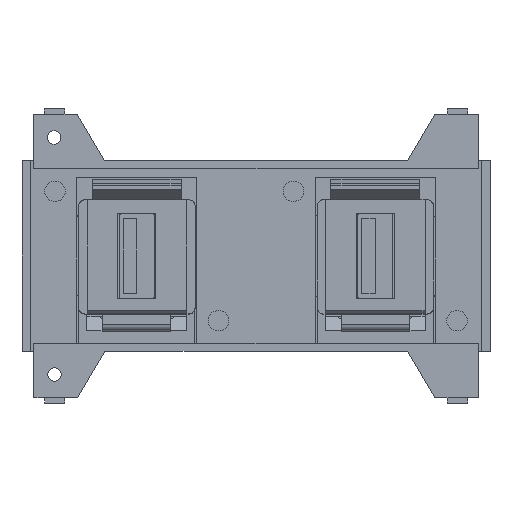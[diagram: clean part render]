
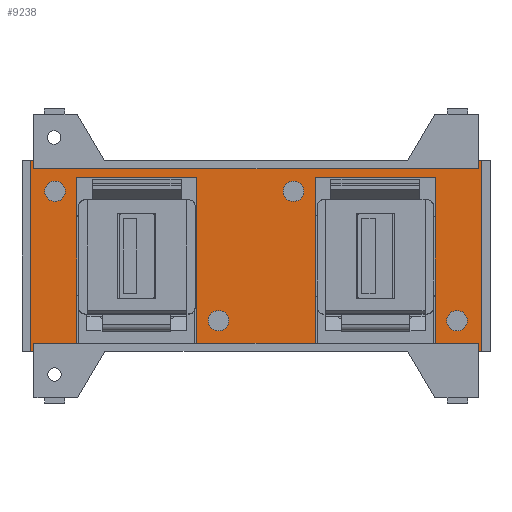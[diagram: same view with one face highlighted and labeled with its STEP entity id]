
A CAD part, top view. The second image highlights one B-rep face of the part: STEP entity #9238.
In plain terms, the highlighted planar face has unit normal (0, 0, 1).
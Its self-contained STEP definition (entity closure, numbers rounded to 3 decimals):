
#8682 = VERTEX_POINT('',#8683);
#8683 = CARTESIAN_POINT('',(-4.5,-9.5,1.2));
#8689 = EDGE_CURVE('',#8682,#8682,#8690,.T.);
#8690 = CIRCLE('',#8691,1.);
#8691 = AXIS2_PLACEMENT_3D('',#8692,#8693,#8694);
#8692 = CARTESIAN_POINT('',(-5.5,-9.5,1.2));
#8693 = DIRECTION('',(0.,0.,-1.));
#8694 = DIRECTION('',(1.,0.,0.));
#8707 = VERTEX_POINT('',#8708);
#8708 = CARTESIAN_POINT('',(30.5,-9.5,1.2));
#8714 = EDGE_CURVE('',#8707,#8707,#8715,.T.);
#8715 = CIRCLE('',#8716,1.);
#8716 = AXIS2_PLACEMENT_3D('',#8717,#8718,#8719);
#8717 = CARTESIAN_POINT('',(29.5,-9.5,1.2));
#8718 = DIRECTION('',(0.,0.,-1.));
#8719 = DIRECTION('',(1.,0.,0.));
#8732 = VERTEX_POINT('',#8733);
#8733 = CARTESIAN_POINT('',(-8.67,11.5,1.2));
#8739 = EDGE_CURVE('',#8740,#8732,#8742,.T.);
#8740 = VERTEX_POINT('',#8741);
#8741 = CARTESIAN_POINT('',(-8.67,-12.8,1.2));
#8742 = LINE('',#8743,#8744);
#8743 = CARTESIAN_POINT('',(-8.67,5.75,1.2));
#8744 = VECTOR('',#8745,1.);
#8745 = DIRECTION('',(0.,1.,0.));
#8763 = VERTEX_POINT('',#8764);
#8764 = CARTESIAN_POINT('',(-26.32,11.5,1.2));
#8770 = EDGE_CURVE('',#8732,#8763,#8771,.T.);
#8771 = LINE('',#8772,#8773);
#8772 = CARTESIAN_POINT('',(-13.16,11.5,1.2));
#8773 = VECTOR('',#8774,1.);
#8774 = DIRECTION('',(-1.,0.,0.));
#8787 = VERTEX_POINT('',#8788);
#8788 = CARTESIAN_POINT('',(-26.32,-12.8,1.2));
#8794 = EDGE_CURVE('',#8763,#8787,#8795,.T.);
#8795 = LINE('',#8796,#8797);
#8796 = CARTESIAN_POINT('',(-26.32,-6.4,1.2));
#8797 = VECTOR('',#8798,1.);
#8798 = DIRECTION('',(0.,-1.,0.));
#8811 = VERTEX_POINT('',#8812);
#8812 = CARTESIAN_POINT('',(-28.5,9.5,1.2));
#8818 = EDGE_CURVE('',#8811,#8811,#8819,.T.);
#8819 = CIRCLE('',#8820,1.);
#8820 = AXIS2_PLACEMENT_3D('',#8821,#8822,#8823);
#8821 = CARTESIAN_POINT('',(-29.5,9.5,1.2));
#8822 = DIRECTION('',(0.,0.,-1.));
#8823 = DIRECTION('',(1.,0.,0.));
#8836 = VERTEX_POINT('',#8837);
#8837 = CARTESIAN_POINT('',(26.33,11.5,1.2));
#8843 = EDGE_CURVE('',#8844,#8836,#8846,.T.);
#8844 = VERTEX_POINT('',#8845);
#8845 = CARTESIAN_POINT('',(26.33,-12.8,1.2));
#8846 = LINE('',#8847,#8848);
#8847 = CARTESIAN_POINT('',(26.33,5.75,1.2));
#8848 = VECTOR('',#8849,1.);
#8849 = DIRECTION('',(0.,1.,0.));
#8867 = VERTEX_POINT('',#8868);
#8868 = CARTESIAN_POINT('',(8.68,11.5,1.2));
#8874 = EDGE_CURVE('',#8836,#8867,#8875,.T.);
#8875 = LINE('',#8876,#8877);
#8876 = CARTESIAN_POINT('',(4.34,11.5,1.2));
#8877 = VECTOR('',#8878,1.);
#8878 = DIRECTION('',(-1.,0.,0.));
#8891 = VERTEX_POINT('',#8892);
#8892 = CARTESIAN_POINT('',(8.68,-12.8,1.2));
#8898 = EDGE_CURVE('',#8867,#8891,#8899,.T.);
#8899 = LINE('',#8900,#8901);
#8900 = CARTESIAN_POINT('',(8.68,-6.4,1.2));
#8901 = VECTOR('',#8902,1.);
#8902 = DIRECTION('',(0.,-1.,0.));
#8915 = VERTEX_POINT('',#8916);
#8916 = CARTESIAN_POINT('',(6.5,9.5,1.2));
#8922 = EDGE_CURVE('',#8915,#8915,#8923,.T.);
#8923 = CIRCLE('',#8924,1.);
#8924 = AXIS2_PLACEMENT_3D('',#8925,#8926,#8927);
#8925 = CARTESIAN_POINT('',(5.5,9.5,1.2));
#8926 = DIRECTION('',(0.,0.,-1.));
#8927 = DIRECTION('',(1.,0.,0.));
#8988 = VERTEX_POINT('',#8989);
#8989 = CARTESIAN_POINT('',(-33.15,14.,1.2));
#8995 = EDGE_CURVE('',#8996,#8988,#8998,.T.);
#8996 = VERTEX_POINT('',#8997);
#8997 = CARTESIAN_POINT('',(-32.65,14.,1.2));
#8998 = LINE('',#8999,#9000);
#8999 = CARTESIAN_POINT('',(34.35,14.,1.2));
#9000 = VECTOR('',#9001,1.);
#9001 = DIRECTION('',(-1.,0.,0.));
#9052 = VERTEX_POINT('',#9053);
#9053 = CARTESIAN_POINT('',(32.65,14.,1.2));
#9059 = EDGE_CURVE('',#9060,#9052,#9062,.T.);
#9060 = VERTEX_POINT('',#9061);
#9061 = CARTESIAN_POINT('',(33.15,14.,1.2));
#9062 = LINE('',#9063,#9064);
#9063 = CARTESIAN_POINT('',(34.35,14.,1.2));
#9064 = VECTOR('',#9065,1.);
#9065 = DIRECTION('',(-1.,0.,0.));
#9108 = VERTEX_POINT('',#9109);
#9109 = CARTESIAN_POINT('',(33.15,-14.,1.2));
#9115 = EDGE_CURVE('',#9116,#9108,#9118,.T.);
#9116 = VERTEX_POINT('',#9117);
#9117 = CARTESIAN_POINT('',(32.65,-14.,1.2));
#9118 = LINE('',#9119,#9120);
#9119 = CARTESIAN_POINT('',(-34.35,-14.,1.2));
#9120 = VECTOR('',#9121,1.);
#9121 = DIRECTION('',(1.,0.,0.));
#9188 = VERTEX_POINT('',#9189);
#9189 = CARTESIAN_POINT('',(-32.65,-14.,1.2));
#9195 = EDGE_CURVE('',#9196,#9188,#9198,.T.);
#9196 = VERTEX_POINT('',#9197);
#9197 = CARTESIAN_POINT('',(-33.15,-14.,1.2));
#9198 = LINE('',#9199,#9200);
#9199 = CARTESIAN_POINT('',(-34.35,-14.,1.2));
#9200 = VECTOR('',#9201,1.);
#9201 = DIRECTION('',(1.,0.,0.));
#9238 = ADVANCED_FACE('',(#9239,#9319,#9322,#9325,#9328),#9331,.T.);
#9239 = FACE_BOUND('',#9240,.T.);
#9240 = EDGE_LOOP('',(#9241,#9247,#9248,#9256,#9262,#9263,#9264,#9265,
    #9271,#9272,#9273,#9274,#9282,#9288,#9289,#9295,#9296,#9304,#9312,
    #9318));
#9241 = ORIENTED_EDGE('',*,*,#9242,.F.);
#9242 = EDGE_CURVE('',#9196,#8988,#9243,.T.);
#9243 = LINE('',#9244,#9245);
#9244 = CARTESIAN_POINT('',(-33.15,-14.,1.2));
#9245 = VECTOR('',#9246,1.);
#9246 = DIRECTION('',(0.,1.,0.));
#9247 = ORIENTED_EDGE('',*,*,#9195,.T.);
#9248 = ORIENTED_EDGE('',*,*,#9249,.F.);
#9249 = EDGE_CURVE('',#9250,#9188,#9252,.T.);
#9250 = VERTEX_POINT('',#9251);
#9251 = CARTESIAN_POINT('',(-32.65,-12.8,1.2));
#9252 = LINE('',#9253,#9254);
#9253 = CARTESIAN_POINT('',(-32.65,-12.8,1.2));
#9254 = VECTOR('',#9255,1.);
#9255 = DIRECTION('',(0.,-1.,0.));
#9256 = ORIENTED_EDGE('',*,*,#9257,.F.);
#9257 = EDGE_CURVE('',#8787,#9250,#9258,.T.);
#9258 = LINE('',#9259,#9260);
#9259 = CARTESIAN_POINT('',(32.65,-12.8,1.2));
#9260 = VECTOR('',#9261,1.);
#9261 = DIRECTION('',(-1.,0.,0.));
#9262 = ORIENTED_EDGE('',*,*,#8794,.F.);
#9263 = ORIENTED_EDGE('',*,*,#8770,.F.);
#9264 = ORIENTED_EDGE('',*,*,#8739,.F.);
#9265 = ORIENTED_EDGE('',*,*,#9266,.F.);
#9266 = EDGE_CURVE('',#8891,#8740,#9267,.T.);
#9267 = LINE('',#9268,#9269);
#9268 = CARTESIAN_POINT('',(32.65,-12.8,1.2));
#9269 = VECTOR('',#9270,1.);
#9270 = DIRECTION('',(-1.,0.,0.));
#9271 = ORIENTED_EDGE('',*,*,#8898,.F.);
#9272 = ORIENTED_EDGE('',*,*,#8874,.F.);
#9273 = ORIENTED_EDGE('',*,*,#8843,.F.);
#9274 = ORIENTED_EDGE('',*,*,#9275,.F.);
#9275 = EDGE_CURVE('',#9276,#8844,#9278,.T.);
#9276 = VERTEX_POINT('',#9277);
#9277 = CARTESIAN_POINT('',(32.65,-12.8,1.2));
#9278 = LINE('',#9279,#9280);
#9279 = CARTESIAN_POINT('',(32.65,-12.8,1.2));
#9280 = VECTOR('',#9281,1.);
#9281 = DIRECTION('',(-1.,0.,0.));
#9282 = ORIENTED_EDGE('',*,*,#9283,.F.);
#9283 = EDGE_CURVE('',#9116,#9276,#9284,.T.);
#9284 = LINE('',#9285,#9286);
#9285 = CARTESIAN_POINT('',(32.65,-14.,1.2));
#9286 = VECTOR('',#9287,1.);
#9287 = DIRECTION('',(0.,1.,0.));
#9288 = ORIENTED_EDGE('',*,*,#9115,.T.);
#9289 = ORIENTED_EDGE('',*,*,#9290,.F.);
#9290 = EDGE_CURVE('',#9060,#9108,#9291,.T.);
#9291 = LINE('',#9292,#9293);
#9292 = CARTESIAN_POINT('',(33.15,14.,1.2));
#9293 = VECTOR('',#9294,1.);
#9294 = DIRECTION('',(0.,-1.,0.));
#9295 = ORIENTED_EDGE('',*,*,#9059,.T.);
#9296 = ORIENTED_EDGE('',*,*,#9297,.F.);
#9297 = EDGE_CURVE('',#9298,#9052,#9300,.T.);
#9298 = VERTEX_POINT('',#9299);
#9299 = CARTESIAN_POINT('',(32.65,12.8,1.2));
#9300 = LINE('',#9301,#9302);
#9301 = CARTESIAN_POINT('',(32.65,12.8,1.2));
#9302 = VECTOR('',#9303,1.);
#9303 = DIRECTION('',(0.,1.,0.));
#9304 = ORIENTED_EDGE('',*,*,#9305,.F.);
#9305 = EDGE_CURVE('',#9306,#9298,#9308,.T.);
#9306 = VERTEX_POINT('',#9307);
#9307 = CARTESIAN_POINT('',(-32.65,12.8,1.2));
#9308 = LINE('',#9309,#9310);
#9309 = CARTESIAN_POINT('',(-32.65,12.8,1.2));
#9310 = VECTOR('',#9311,1.);
#9311 = DIRECTION('',(1.,0.,0.));
#9312 = ORIENTED_EDGE('',*,*,#9313,.F.);
#9313 = EDGE_CURVE('',#8996,#9306,#9314,.T.);
#9314 = LINE('',#9315,#9316);
#9315 = CARTESIAN_POINT('',(-32.65,14.,1.2));
#9316 = VECTOR('',#9317,1.);
#9317 = DIRECTION('',(0.,-1.,0.));
#9318 = ORIENTED_EDGE('',*,*,#8995,.T.);
#9319 = FACE_BOUND('',#9320,.T.);
#9320 = EDGE_LOOP('',(#9321));
#9321 = ORIENTED_EDGE('',*,*,#8689,.T.);
#9322 = FACE_BOUND('',#9323,.T.);
#9323 = EDGE_LOOP('',(#9324));
#9324 = ORIENTED_EDGE('',*,*,#8714,.T.);
#9325 = FACE_BOUND('',#9326,.T.);
#9326 = EDGE_LOOP('',(#9327));
#9327 = ORIENTED_EDGE('',*,*,#8818,.T.);
#9328 = FACE_BOUND('',#9329,.T.);
#9329 = EDGE_LOOP('',(#9330));
#9330 = ORIENTED_EDGE('',*,*,#8922,.T.);
#9331 = PLANE('',#9332);
#9332 = AXIS2_PLACEMENT_3D('',#9333,#9334,#9335);
#9333 = CARTESIAN_POINT('',(0.,0.,1.2));
#9334 = DIRECTION('',(0.,0.,1.));
#9335 = DIRECTION('',(1.,0.,-0.));
